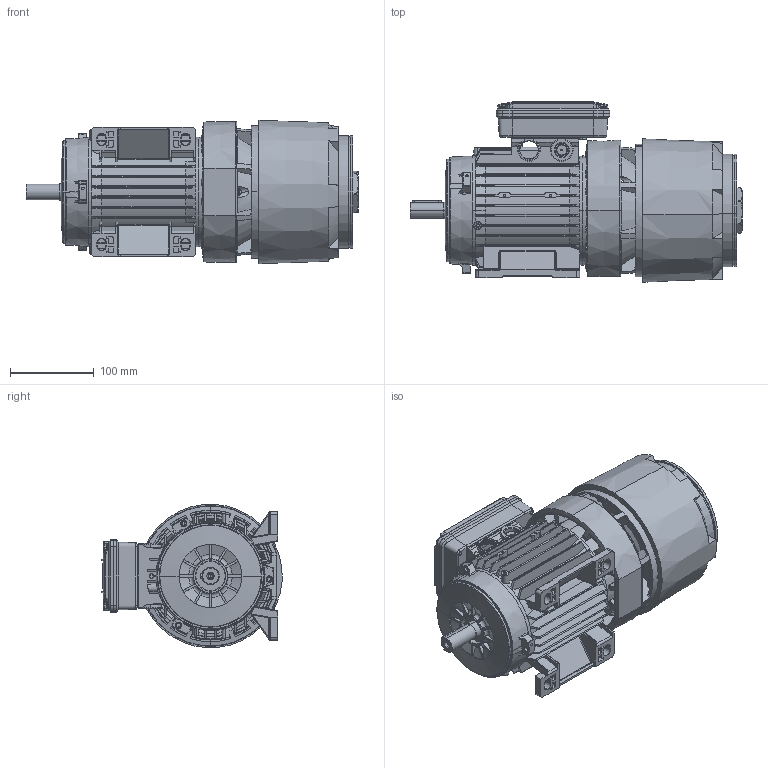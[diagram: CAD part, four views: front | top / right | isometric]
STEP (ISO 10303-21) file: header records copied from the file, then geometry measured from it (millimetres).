
FILE_DESCRIPTION (( 'STEP AP214' ), '1' );
FILE_NAME ('M08DA0010.STEP', '2020-11-03T10:28:20', ( '' ), ( '' ), 'SwSTEP 2.0', 'SolidWorks 2018', '' );
FILE_SCHEMA (( 'AUTOMOTIVE_DESIGN' ));
Length unit declared in the file: millimetre
Products named in the file (15): Convogliatore con pista d''attrito P2 BAH 80; Scudo Lato Freno BA80 P1; Scudo Lato Comando B3 BA-BM 80 - DCAD0094; Scatola per Morsettiera Doppia 63-71-80 - Completa; Guarnizione Scatola Singola 63-71-80; Vite per coperchio morsettiera; Coperchio per Scatola per Morsettiera Doppia 63-71-80; Scatola per Morsettiera Doppia 63-71-80; Carcassa 80 B3; M08DA0010; Tappo a testa Esagonale M40x1,5; Vite BAH 80; Chiavetta 80; Albero BA 80; Cuffia BAH 80 - DCG20017
Assembly tree (17 placements, depth 3):
  M08DA0010
    Carcassa 80 B3
    Scatola per Morsettiera Doppia 63-71-80 - Completa
      Scatola per Morsettiera Doppia 63-71-80
      Coperchio per Scatola per Morsettiera Doppia 63-71-80
      Vite per coperchio morsettiera  x4
      Guarnizione Scatola Singola 63-71-80
    Scudo Lato Comando B3 BA-BM 80 - DCAD0094
    Scudo Lato Freno BA80 P1
    Convogliatore con pista d''attrito P2 BAH 80
    Cuffia BAH 80 - DCG20017
    Albero BA 80
    Chiavetta 80
    Vite BAH 80
    Tappo a testa Esagonale M40x1,5
Bounding box: 395.5 x 214.9 x 170.8 mm (x, y, z)
Volume: 1624982.7 mm3; surface area: 785665.8 mm2
Topology: 16 solids, 16 shells, 3061 faces, 8455 edges, 5423 vertices
Faces by surface type: plane 1056, cylinder 973, torus 373, cone 346, bspline 301, sphere 12
Entity records: 113526 total; most frequent: CARTESIAN_POINT 42111, ORIENTED_EDGE 16004, DIRECTION 13286, EDGE_CURVE 8002, VERTEX_POINT 5169, AXIS2_PLACEMENT_3D 5101, LINE 3084, VECTOR 3084
